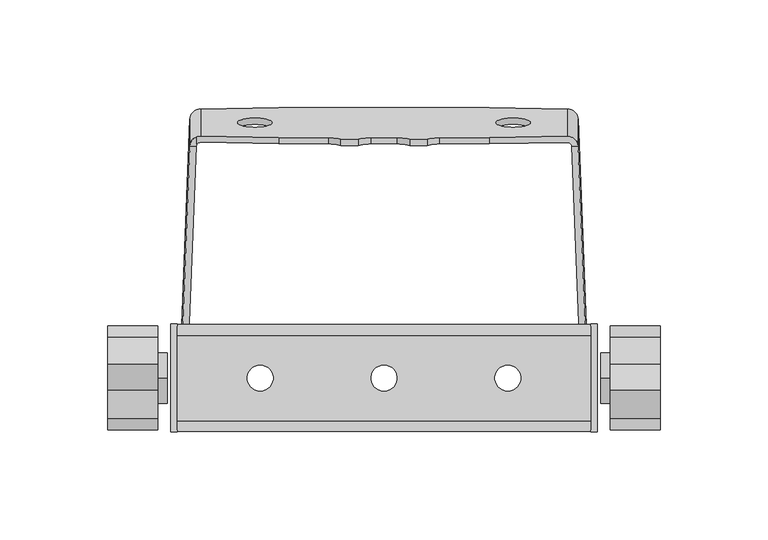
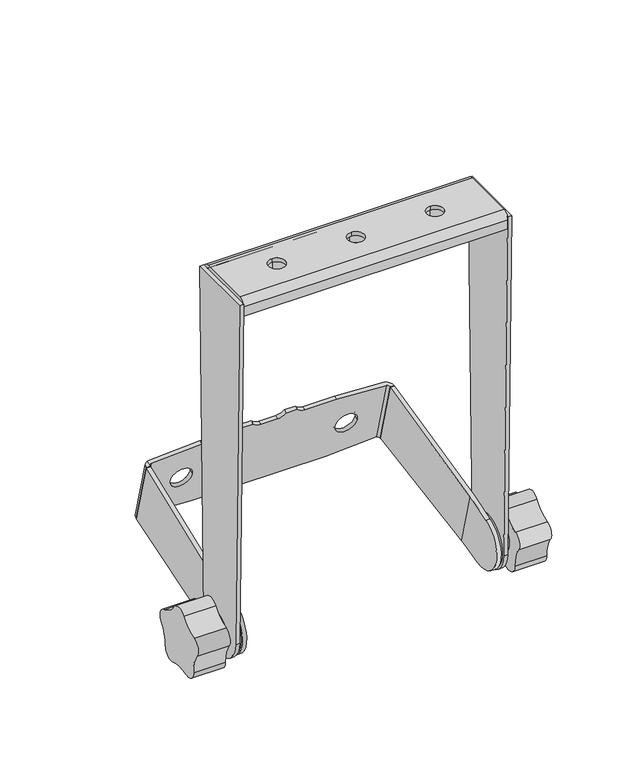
"""IFC4 building model written with IfcOpenShell, lengths in millimetres: proxy geometry, d&b U-Series U3 Swivel Bracket : d&b U-Series U3 Swivel Bracket."""

from ifc_helpers import new_model, si_unit, point, frame, frame_2d, origin, origin_2d, place, context, project, spatial, polyline, circle_curve, ellipse_curve, trimmed, segment, composite_curve, outline, extrude, source, transform, mapped, element, save
from ifc_brep_helpers import plane_surface, cylinder_surface, revolved_surface, advanced_brep


def communication_devices_f46f4e43(model_context):
    return source(origin(), model_context, "Body", "SolidModel", [
        advanced_brep(
        [(85.2249786, 109.5968687, 54.6233142), (49.0, 108.9412549, 57.0700983), (26.0, 108.9412549, 57.0700983), (20.0, 108.1647978, 59.9678757), (11.9986269, 108.1649755, 59.9672126), (6.0, 108.9412549, 57.0700983), (-6.0, 108.9412549, 57.0700983), (-11.9986269, 108.1649755, 59.9672126), (-20.0, 108.1647978, 59.9678757), (-26.0, 108.9412549, 57.0700983), (-49.0, 108.9412549, 57.0700983), (-85.2249786, 109.6322735, 54.4911818), (-85.2249786, 122.2253296, 7.4932566), (-49.0, 122.8809434, 5.0464726), (49.0, 122.8809434, 5.0464726), (85.2249786, 122.2253296, 7.4932566), (-68.015413, 115.9232503, 31.0129366), (-51.9395257, 115.9232503, 31.0129366), (68.015413, 115.9232503, 31.0129366), (51.9395257, 115.9232503, 31.0129366), (-86.9078273, 108.704187, 54.1140954), (-87.1464599, 107.8082819, 53.8743772), (-87.1464599, 120.3345454, 7.1257254), (-90.1441716, 107.920985, 53.9088321), (-90.1441716, 120.3940588, 7.358687), (-86.9078273, 112.2531286, 55.0650314), (-85.1480264, 112.528583, 55.2731173), (-85.1480264, 125.1244998, 8.2645161), (-49.0, 111.8390324, 57.8465554), (-26.0, 111.8390324, 57.8465554), (-20.0, 111.0625753, 60.7443329), (-11.9986269, 111.0627529, 60.7436697), (-6.0, 111.8390324, 57.8465554), (6.0, 111.8390324, 57.8465554), (11.9986269, 111.0627529, 60.7436697), (20.0, 111.0625753, 60.7443329), (26.0, 111.8390324, 57.8465554), (49.0, 111.8390324, 57.8465554), (85.1480264, 112.4932535, 55.404969), (85.1480264, 125.1244998, 8.2645161), (49.0, 125.7787209, 5.8229297), (-49.0, 125.7787209, 5.8229297), (-51.9395257, 118.8210278, 31.7893938), (-68.015413, 118.8210278, 31.7893938), (51.9395257, 118.8210278, 31.7893938), (68.015413, 118.8210278, 31.7893938), (90.1441716, 107.9436569, 53.8242195), (90.1441716, 120.3940588, 7.358687), (87.1464599, 107.775636, 53.9962135), (87.1464599, 120.3345454, 7.1257254)],
        [
            (0, 1),
            (1, 2),
            (2, 3, circle_curve(frame((26.0, 107.0001121, 64.314542), z_axis=(0.0, 0.9659258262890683, 0.2588190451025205), x_axis=(-1.0, 0.0, 0.0)), 7.5)),
            (3, 4),
            (4, 5, circle_curve(frame((6.0, 107.0005563, 64.3128841), z_axis=(0.0, 0.9659258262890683, 0.2588190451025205), x_axis=(-1.0, 0.0, 0.0)), 7.4982837)),
            (5, 6),
            (6, 7, circle_curve(frame((-6.0, 107.0005563, 64.3128841), z_axis=(0.0, 0.9659258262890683, 0.2588190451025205), x_axis=(1.0, 0.0, 0.0)), 7.4982837)),
            (7, 8),
            (8, 9, circle_curve(frame((-26.0, 107.0001121, 64.314542), z_axis=(0.0, 0.9659258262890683, 0.2588190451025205), x_axis=(1.0, 0.0, 0.0)), 7.5)),
            (9, 10),
            (10, 11),
            (11, 12),
            (12, 13),
            (13, 14),
            (14, 15),
            (15, 0),
            (16, 17, circle_curve(frame((-59.9774693, 115.9232503, 31.0129366), z_axis=(0.0, 0.9659258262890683, 0.2588190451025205), x_axis=(1.0, 0.0, 0.0)), 8.0379437)),
            (17, 16, circle_curve(frame((-59.9774693, 115.9232503, 31.0129366), z_axis=(0.0, 0.9659258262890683, 0.2588190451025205), x_axis=(1.0, 0.0, 0.0)), 8.0379437)),
            (18, 19, circle_curve(frame((59.9774693, 115.9232503, 31.0129366), z_axis=(0.0, 0.9659258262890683, 0.2588190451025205), x_axis=(-1.0, 0.0, 0.0)), 8.0379437)),
            (19, 18, circle_curve(frame((59.9774693, 115.9232503, 31.0129366), z_axis=(0.0, 0.9659258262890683, 0.2588190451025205), x_axis=(-1.0, 0.0, 0.0)), 8.0379437)),
            (11, 20, ellipse_curve(frame((-85.2249786, 107.776265, 53.9938659), z_axis=(-0.07350366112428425, -0.2581189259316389, 0.9633129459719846), x_axis=(-0.997294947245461, 0.019024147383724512, -0.07099908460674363)), 1.9266931, 1.9214813)),
            (20, 21, ellipse_curve(frame((-85.2249786, 107.808964, 53.8718318), z_axis=(0.001371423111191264, -0.2588188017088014, 0.9659249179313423), x_axis=(0.9999990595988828, 0.00035495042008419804, -0.0013246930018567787)), 1.9214831, 1.9214813)),
            (21, 22),
            (22, 12, ellipse_curve(frame((-85.2249786, 120.3693211, 6.9959407), z_axis=(-0.06975647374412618, 0.2581885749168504, -0.9635728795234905), x_axis=(0.9975640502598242, 0.018054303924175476, -0.06737957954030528)), 1.9261734, 1.9214813)),
            (21, 23),
            (23, 24),
            (24, 22),
            (23, 25, ellipse_curve(frame((-85.1480264, 107.7331481, 53.8514077), z_axis=(-0.001371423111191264, 0.2588188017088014, -0.9659249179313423), x_axis=(-0.9999990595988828, -0.00035495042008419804, 0.0013246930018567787)), 5.0000047, 5.0)),
            (25, 26, ellipse_curve(frame((-85.1480264, 107.6989539, 53.9790221), z_axis=(0.07350366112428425, 0.2581189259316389, -0.9633129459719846), x_axis=(0.997294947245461, -0.019024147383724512, 0.07099908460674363)), 5.0135619, 5.0)),
            (26, 27),
            (27, 24, ellipse_curve(frame((-85.1480264, 120.2948706, 6.9704209), z_axis=(0.06975647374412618, -0.2581885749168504, 0.9635728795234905), x_axis=(-0.9975640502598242, -0.018054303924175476, 0.06737957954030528)), 5.0122095, 5.0)),
            (26, 28),
            (28, 29),
            (29, 30, circle_curve(frame((-26.0, 109.8978895, 65.0909991), z_axis=(0.0, -0.9659258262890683, -0.2588190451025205), x_axis=(1.0, 0.0, 0.0)), 7.5)),
            (30, 31),
            (31, 32, circle_curve(frame((-6.0, 109.8983338, 65.0893412), z_axis=(0.0, -0.9659258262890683, -0.2588190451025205), x_axis=(1.0, 0.0, 0.0)), 7.4982837)),
            (32, 33),
            (33, 34, circle_curve(frame((6.0, 109.8983338, 65.0893412), z_axis=(0.0, -0.9659258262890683, -0.2588190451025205), x_axis=(-1.0, 0.0, 0.0)), 7.4982837)),
            (34, 35),
            (35, 36, circle_curve(frame((26.0, 109.8978895, 65.0909991), z_axis=(0.0, -0.9659258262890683, -0.2588190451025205), x_axis=(-1.0, 0.0, 0.0)), 7.5)),
            (36, 37),
            (37, 38),
            (38, 39),
            (39, 40),
            (40, 41),
            (41, 27),
            (42, 43, circle_curve(frame((-59.9774693, 118.8210278, 31.7893938), z_axis=(0.0, -0.9659258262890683, -0.2588190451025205), x_axis=(1.0, 0.0, 0.0)), 8.0379437)),
            (43, 42, circle_curve(frame((-59.9774693, 118.8210278, 31.7893938), z_axis=(0.0, -0.9659258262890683, -0.2588190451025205), x_axis=(1.0, 0.0, 0.0)), 8.0379437)),
            (44, 45, circle_curve(frame((59.9774693, 118.8210278, 31.7893938), z_axis=(0.0, -0.9659258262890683, -0.2588190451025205), x_axis=(-1.0, 0.0, 0.0)), 8.0379437)),
            (45, 44, circle_curve(frame((59.9774693, 118.8210278, 31.7893938), z_axis=(0.0, -0.9659258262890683, -0.2588190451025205), x_axis=(-1.0, 0.0, 0.0)), 8.0379437)),
            (38, 46, ellipse_curve(frame((85.1480264, 107.6636244, 54.1108738), z_axis=(-0.06975647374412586, 0.25818857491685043, -0.9635728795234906), x_axis=(-0.9975640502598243, -0.018054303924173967, 0.06737957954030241)), 5.0122095, 5.0)),
            (46, 47),
            (47, 39, ellipse_curve(frame((85.1480264, 120.2948706, 6.9704209), z_axis=(-0.06975647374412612, -0.2581885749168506, 0.9635728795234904), x_axis=(0.9975640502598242, -0.01805430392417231, 0.06737957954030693)), 5.0122095, 5.0)),
            (46, 48),
            (48, 49),
            (49, 47),
            (15, 49, ellipse_curve(frame((85.2249786, 120.3693211, 6.9959407), z_axis=(0.06975647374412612, 0.2581885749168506, -0.9635728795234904), x_axis=(-0.9975640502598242, 0.01805430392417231, -0.06737957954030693)), 1.9261734, 1.9214813)),
            (48, 0, ellipse_curve(frame((85.2249786, 107.7408603, 54.1259982), z_axis=(0.06975647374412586, -0.25818857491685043, 0.9635728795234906), x_axis=(0.9975640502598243, 0.018054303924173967, -0.06737957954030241)), 1.9261734, 1.9214813)),
            (10, 28),
            (25, 20),
            (9, 29),
            (7, 31),
            (30, 8),
            (5, 33),
            (32, 6),
            (1, 37),
            (36, 2),
            (41, 13),
            (14, 40),
            (4, 34),
            (3, 35),
            (17, 42),
            (43, 16),
            (19, 44),
            (45, 18),
        ],
        [
            plane_surface(frame((85.2249786, 103.2548082, 78.2922064), z_axis=(0.0, -0.9659258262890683, -0.2588190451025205), x_axis=(0.0, 0.2588190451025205, -0.9659258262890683))),
            revolved_surface(polyline([(-83.3034973, 120.404096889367, 6.866155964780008), (-83.3034973, 107.73961137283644, 54.130659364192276)]), (-85.2249786, 124.7073671, -9.1938671), (0.0, 0.2588190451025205, -0.9659258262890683)),
            plane_surface(frame((-87.1464599, 101.3987997, 77.7948905), z_axis=(-0.03925981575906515, -0.9651811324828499, -0.2586195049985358), x_axis=(0.0, 0.2588190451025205, -0.9659258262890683))),
            cylinder_surface(frame((-85.1480264, 124.6315239, -9.2141893), z_axis=(0.0, -0.2588190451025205, 0.9659258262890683), x_axis=(1.0, 0.0, 0.0)), 5.0),
            plane_surface(frame((-85.1480264, 106.1525856, 79.0686636), z_axis=(0.0, 0.9659258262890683, 0.2588190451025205), x_axis=(0.0, 0.2588190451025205, -0.9659258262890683))),
            cylinder_surface(frame((85.1480264, 124.6315239, -9.2141893), z_axis=(0.0, -0.2588190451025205, 0.9659258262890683), x_axis=(-1.0, 0.0, 0.0)), 5.0),
            plane_surface(frame((90.1441716, 101.5125669, 77.8253743), z_axis=(0.03925981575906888, -0.9651811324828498, -0.2586195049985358), x_axis=(0.0, 0.2588190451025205, -0.9659258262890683))),
            revolved_surface(polyline([(83.3034973, 120.404096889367, 6.866155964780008), (83.3034973, 107.70608460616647, 54.2557829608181)]), (85.2249786, 124.7073671, -9.1938671), (0.0, 0.2588190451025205, -0.9659258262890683)),
            plane_surface(frame((-86.9078273, 136.7102982, 61.6183103), z_axis=(-0.07350366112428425, -0.2581189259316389, 0.9633129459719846), x_axis=(0.0, -0.9659258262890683, -0.2588190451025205))),
            plane_surface(frame((-49.0, 135.987178, 64.3170315), z_axis=(0.0, -0.2588190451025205, 0.9659258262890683), x_axis=(0.0, -0.9659258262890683, -0.2588190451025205))),
            plane_surface(frame((-20.0, 135.2107209, 67.214809), z_axis=(8.580259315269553e-05, -0.2588190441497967, 0.9659258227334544), x_axis=(0.0, -0.9659258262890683, -0.2588190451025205))),
            plane_surface(frame((-6.0, 135.987178, 64.3170315), z_axis=(0.0, -0.2588190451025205, 0.9659258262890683), x_axis=(0.0, -0.9659258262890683, -0.2588190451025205))),
            plane_surface(frame((26.0, 135.987178, 64.3170315), z_axis=(0.0, -0.2588190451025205, 0.9659258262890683), x_axis=(0.0, -0.9659258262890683, -0.2588190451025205))),
            plane_surface(frame((49.0, 135.987178, 64.3170315), z_axis=(0.06975647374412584, -0.2581885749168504, 0.9635728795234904), x_axis=(0.0, -0.9659258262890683, -0.2588190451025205))),
            plane_surface(frame((-49.0, 149.9268665, 12.2934058), z_axis=(-0.06975647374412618, 0.2581885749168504, -0.9635728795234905), x_axis=(0.0, -0.9659258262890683, -0.2588190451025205))),
            plane_surface(frame((90.1441716, 149.1822232, 15.0724524), z_axis=(0.06975647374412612, 0.2581885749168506, -0.9635728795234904), x_axis=(0.0, -0.9659258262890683, -0.2588190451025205))),
            plane_surface(frame((49.0, 149.9268665, 12.2934058), z_axis=(0.0, 0.2588190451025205, -0.9659258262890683), x_axis=(0.0, -0.9659258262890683, -0.2588190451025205))),
            revolved_surface(polyline([(-18.5, 109.89788959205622, 65.09099913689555), (-18.5, 107.00011206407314, 64.31454198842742)]), (-26.0, 85.7497439, 58.620523), (0.0, 0.9659258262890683, 0.2588190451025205)),
            revolved_surface(polyline([(1.4982837, 109.89833379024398, 65.08934123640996), (1.4982837, 107.00055629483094, 64.31288409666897)]), (-6.0, 85.7501881, 58.6188651), (0.0, 0.9659258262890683, 0.2588190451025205)),
            revolved_surface(polyline([(-1.4982837, 109.89833379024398, 65.08934123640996), (-1.4982837, 107.00055629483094, 64.31288409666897)]), (6.0, 85.7501881, 58.6188651), (0.0, 0.9659258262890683, 0.2588190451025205)),
            plane_surface(frame((11.9986269, 135.2108986, 67.2141459), z_axis=(-8.580259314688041e-05, -0.2588190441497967, 0.9659258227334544), x_axis=(0.0, -0.9659258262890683, -0.2588190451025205))),
            revolved_surface(polyline([(18.5, 109.89788959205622, 65.09099913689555), (18.5, 107.00011206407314, 64.31454198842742)]), (26.0, 85.7497439, 58.620523), (0.0, 0.9659258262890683, 0.2588190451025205)),
            plane_surface(frame((-90.1441716, 136.7091495, 61.6225975), z_axis=(0.001371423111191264, -0.2588188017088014, 0.9659249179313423), x_axis=(0.0, -0.9659258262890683, -0.2588190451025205))),
            revolved_surface(polyline([(-51.9395256, 118.82102781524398, 31.789393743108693), (-51.9395256, 115.9232503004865, 31.012936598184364)]), (-59.9774693, 94.6728821, 25.3189176), (0.0, 0.9659258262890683, 0.2588190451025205)),
            revolved_surface(polyline([(51.9395256, 118.8210278, 31.7893938), (51.9395256, 115.92325028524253, 31.01293665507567)]), (59.9774693, 118.8210278, 31.7893938), (0.0, 0.9659258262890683, 0.2588190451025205)),
        ],
        [
            (0, [[1, 2, 3, 4, 5, 6, 7, 8, 9, 10, 11, 12, 13, 14, 15, 16], [17, 18], [19, 20]]),
            (1, [[21, 22, 23, 24, -12]]),
            (2, [[25, 26, 27, -23]]),
            (3, [[28, 29, 30, 31, -26]]),
            (4, [[32, 33, 34, 35, 36, 37, 38, 39, 40, 41, 42, 43, 44, 45, 46, -30], [47, 48], [49, 50]]),
            (5, [[51, 52, 53, -43]]),
            (6, [[54, 55, 56, -52]]),
            (7, [[57, -55, 58, -16]]),
            (8, [[-21, -11, 59, -32, -29, 60]]),
            (9, [[-10, 61, -33, -59]]),
            (10, [[-8, 62, -35, 63]]),
            (11, [[-6, 64, -37, 65]]),
            (12, [[-2, 66, -41, 67]]),
            (13, [[-1, -58, -54, -51, -42, -66]]),
            (14, [[-13, -24, -27, -31, -46, 68]]),
            (15, [[-44, -53, -56, -57, -15, 69]]),
            (16, [[-45, -69, -14, -68]]),
            (17, [[-34, -61, -9, -63]]),
            (18, [[-36, -62, -7, -65]]),
            (19, [[-5, 70, -38, -64]]),
            (20, [[-4, 71, -39, -70]]),
            (21, [[-40, -71, -3, -67]]),
            (22, [[-28, -25, -22, -60]]),
            (23, [[-18, 72, -48, 73]]),
            (23, [[-47, -72, -17, -73]]),
            (24, [[-20, 74, -50, 75]]),
            (24, [[-49, -74, -19, -75]]),
        ],
    ),
        advanced_brep(
        [(90.9999991, 13.958857, 25.1789898), (87.1464845, 107.8129201, 53.8570709), (87.1464845, 120.2972632, 7.2648685), (90.9999991, 24.6789044, -14.8287719), (94.0023138, 24.6789044, -14.8287719), (90.1441716, 120.4110294, 7.295352), (90.1441716, 107.9266863, 53.8875545), (94.0023138, 13.958857, 25.1789898), (94.0, -5.8465731, 19.1232793), (94.0, 10.050104, 23.9838491), (91.0, 10.050104, 23.9838491), (91.0, -5.8465731, 19.1232793), (91.0, 4.4990789, -19.4876517), (91.0, 20.6961894, -15.7482541), (94.0, 20.6961894, -15.7482541), (94.0, 4.4990789, -19.4876517)],
        [
            (0, 1),
            (1, 2),
            (2, 3),
            (3, 0),
            (4, 5),
            (5, 6),
            (6, 7),
            (7, 4),
            (8, 9),
            (9, 7),
            (6, 1),
            (0, 10),
            (10, 11),
            (11, 8),
            (12, 13),
            (13, 3),
            (2, 5),
            (4, 14),
            (14, 15),
            (15, 12),
            (8, 15, circle_curve(frame((94.0, 0.0, 0.0), z_axis=(1.0, 0.0, 0.0), x_axis=(0.0, 0.9659258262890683, 0.2588190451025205)), 20.0)),
            (12, 11, circle_curve(frame((91.0, 0.0, 0.0), z_axis=(-1.0, 0.0, 0.0), x_axis=(0.0, 0.9659258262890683, 0.2588190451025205)), 20.0)),
        ],
        [
            plane_surface(frame((90.9999991, 12.8480622, 29.3245324), z_axis=(-0.9992290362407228, -0.03792206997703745, -0.010161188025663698), x_axis=(0.0, 0.2588190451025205, -0.9659258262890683))),
            plane_surface(frame((93.3256533, 29.4833896, 33.781955), z_axis=(0.9992290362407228, 0.03792206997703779, 0.010161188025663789), x_axis=(0.0, 0.2588190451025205, -0.9659258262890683))),
            plane_surface(frame((250.0, 33.9720379, 31.2982221), z_axis=(0.0, -0.29239743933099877, 0.9562968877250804), x_axis=(-1.0, 0.0, 0.0))),
            plane_surface(frame((250.0, 20.6961982, -15.7482521), z_axis=(0.0, 0.22495105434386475, -0.9743700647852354), x_axis=(-1.0, 0.0, 0.0))),
            plane_surface(frame((94.0, 13.9582388, 25.181297), z_axis=(1.0000000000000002, 0.0, 0.0), x_axis=(0.0, 0.2588190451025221, -0.965925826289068))),
            plane_surface(frame((91.0, 13.9582388, 25.181297), z_axis=(-1.0000000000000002, 0.0, 0.0), x_axis=(0.0, -0.2588190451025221, 0.965925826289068))),
            cylinder_surface(frame((91.0, 0.0, 0.0), z_axis=(1.0, 0.0, 0.0), x_axis=(0.0, 0.9659258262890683, 0.2588190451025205)), 20.0),
            plane_surface(frame((90.1441716, 107.9266863, 53.8875545), z_axis=(-0.03925981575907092, 0.9651811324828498, 0.25861950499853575), x_axis=(-0.9992290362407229, -0.03792206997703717, -0.010161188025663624))),
        ],
        [
            (0, [[1, 2, 3, 4]]),
            (1, [[5, 6, 7, 8]]),
            (2, [[9, 10, -7, 11, -1, 12, 13, 14]]),
            (3, [[15, 16, -3, 17, -5, 18, 19, 20]]),
            (4, [[-19, -18, -8, -10, -9, 21]]),
            (5, [[-13, -12, -4, -16, -15, 22]]),
            (6, [[-14, -22, -20, -21]]),
            (7, [[-17, -2, -11, -6]]),
        ],
    ),
        advanced_brep(
        [(-90.1441716, 107.9202414, 53.9086328), (-94.0023138, 13.958857, 25.1789898), (-94.0, 10.050104, 23.9838491), (-94.0, -5.8465731, 19.1232793), (-91.0, -5.8465731, 19.1232793), (-91.0, 10.050104, 23.9838491), (-91.0, 13.9589368, 25.1790142), (-87.1464845, 107.807678, 53.8742154), (-87.1464845, 120.3012968, 7.2473969), (-90.9999991, 24.6789044, -14.8287719), (-91.0, 20.6961894, -15.7482541), (-91.0, 4.4990789, -19.4876517), (-94.0, 4.4990789, -19.4876517), (-94.0, 20.6961894, -15.7482541), (-94.0, 24.6788957, -14.8287739), (-90.1441716, 120.4159876, 7.2738753)],
        [
            (0, 1),
            (1, 2),
            (2, 3),
            (3, 4),
            (4, 5),
            (5, 6),
            (6, 7),
            (7, 0),
            (8, 9),
            (9, 10),
            (10, 11),
            (11, 12),
            (12, 13),
            (13, 14),
            (14, 15),
            (15, 8),
            (14, 1),
            (0, 15),
            (6, 9),
            (8, 7),
            (12, 3, circle_curve(frame((-94.0, 0.0, 0.0), z_axis=(-1.0, 0.0, 0.0), x_axis=(0.0, 0.9659258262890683, 0.2588190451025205)), 20.0)),
            (4, 11, circle_curve(frame((-91.0, 0.0, 0.0), z_axis=(1.0, 0.0, 0.0), x_axis=(0.0, 0.9659258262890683, 0.2588190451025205)), 20.0)),
        ],
        [
            plane_surface(frame((250.0, 33.9720379, 31.2982221), z_axis=(0.0, -0.29239743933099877, 0.9562968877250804), x_axis=(-1.0, 0.0, 0.0))),
            plane_surface(frame((250.0, 20.6961982, -15.7482521), z_axis=(0.0, 0.22495105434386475, -0.9743700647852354), x_axis=(-1.0, 0.0, 0.0))),
            plane_surface(frame((-94.0023138, 12.8480622, 29.3245324), z_axis=(-0.999229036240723, 0.03792206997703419, 0.010161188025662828), x_axis=(0.0, 0.2588190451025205, -0.9659258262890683))),
            plane_surface(frame((-90.3279662, 29.3696234, 33.7514714), z_axis=(0.9992290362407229, -0.037922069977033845, -0.010161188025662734), x_axis=(0.0, 0.2588190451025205, -0.9659258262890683))),
            plane_surface(frame((-90.1441716, 120.4110294, 7.295352), z_axis=(0.03925981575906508, 0.9651811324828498, 0.2586195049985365), x_axis=(0.9992290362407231, -0.03792206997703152, -0.01016118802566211))),
            plane_surface(frame((-94.0, -5.8474341, 19.1260951), z_axis=(-1.0000000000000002, 0.0, 0.0), x_axis=(0.0, -0.9563047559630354, -0.2923717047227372))),
            plane_surface(frame((-91.0, -5.8474341, 19.1260951), z_axis=(1.0000000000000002, 0.0, 0.0), x_axis=(0.0, 0.9563047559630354, 0.2923717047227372))),
            cylinder_surface(frame((-91.0, 0.0, 0.0), z_axis=(-1.0, 0.0, 0.0), x_axis=(0.0, 0.9659258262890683, 0.2588190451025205)), 20.0),
        ],
        [
            (0, [[1, 2, 3, 4, 5, 6, 7, 8]]),
            (1, [[9, 10, 11, 12, 13, 14, 15, 16]]),
            (2, [[-15, 17, -1, 18]]),
            (3, [[-7, 19, -9, 20]]),
            (4, [[-8, -20, -16, -18]]),
            (5, [[-3, -2, -17, -14, -13, 21]]),
            (6, [[-11, -10, -19, -6, -5, 22]]),
            (7, [[-12, -22, -4, -21]]),
        ],
    ),
        extrude(outline(composite_curve([segment(polyline([(-19.9815439, -1.5366539), (-25.0477362, 262.1), (25.0476426, 262.1), (19.9913858, -1.5366539)]), True, "CONTINUOUS"), segment(trimmed(circle_curve(frame_2d((0.004921, -0.7683412)), 20.001227), [point((19.9913858, -1.5366539))], [point((-19.9815439, -1.5366539))], False, "CARTESIAN"), True, "CONTINUOUS")], self_intersect=False)), frame((-99.0, 0.0, 0.0), z_axis=(1.0, 0.0, 0.0), x_axis=(0.0, 1.0, 0.0)), (0.0, 0.0, 1.0), 3.0),
        extrude(outline(composite_curve([segment(polyline([(-19.9815439, -1.5366539), (-25.0477362, 262.1), (25.0476426, 262.1), (19.9913858, -1.5366539)]), True, "CONTINUOUS"), segment(trimmed(circle_curve(frame_2d((0.004921, -0.7683412)), 20.001227), [point((19.9913858, -1.5366539))], [point((-19.9815439, -1.5366539))], False, "CARTESIAN"), True, "CONTINUOUS")], self_intersect=False)), frame((96.0, 0.0, 0.0), z_axis=(1.0, 0.0, 0.0), x_axis=(0.0, 1.0, 0.0)), (0.0, 0.0, 1.0), 3.0),
        extrude(outline(composite_curve([segment(trimmed(circle_curve(frame_2d((27.151281, 35.7782371)), 25.0), [point((6.4330521, 21.7869901))], [point((19.2519239, 12.0590433))], True, "CARTESIAN"), True, "CONTINUOUS"), segment(trimmed(circle_curve(frame_2d((16.9397501, 5.1163393)), 7.3176011), [point((19.2519239, 12.0590433))], [point((22.7085813, 0.614354))], False, "CARTESIAN"), True, "CONTINUOUS"), segment(trimmed(circle_curve(frame_2d((42.4173328, -14.7663194)), 25.0), [point((22.7085813, 0.614354))], [point((17.4180033, -14.5832183))], True, "CARTESIAN"), True, "CONTINUOUS"), segment(trimmed(circle_curve(frame_2d((10.1005985, -14.5296239)), 7.3176011), [point((17.4180033, -14.5832183))], [point((7.601623, -21.4072984))], False, "CARTESIAN"), True, "CONTINUOUS"), segment(trimmed(circle_curve(frame_2d((-0.9359276, -44.9043244)), 25.0), [point((7.601623, -21.4072984))], [point((-8.4870058, -21.0719679))], True, "CARTESIAN"), True, "CONTINUOUS"), segment(trimmed(circle_curve(frame_2d((-10.6972369, -14.0961408)), 7.3176011), [point((-8.4870058, -21.0719679))], [point((-18.01052, -13.8447921))], False, "CARTESIAN"), True, "CONTINUOUS"), segment(trimmed(circle_curve(frame_2d((-42.9957679, -12.9860793)), 25.0), [point((-18.01052, -13.8447921))], [point((-22.6632614, 1.560026))], True, "CARTESIAN"), True, "CONTINUOUS"), segment(trimmed(circle_curve(frame_2d((-16.7118545, 5.8177298)), 7.3176011), [point((-22.6632614, 1.560026))], [point((-18.7327365, 12.8507464))], False, "CARTESIAN"), True, "CONTINUOUS"), segment(trimmed(circle_curve(frame_2d((-25.6369183, 36.878486)), 25.0), [point((-18.7327365, 12.8507464))], [point((-5.51966, 22.036117))], True, "CARTESIAN"), True, "CONTINUOUS"), segment(trimmed(circle_curve(frame_2d((0.3687428, 17.6916955)), 7.3176011), [point((-5.51966, 22.036117))], [point((6.4330521, 21.7869901))], False, "CARTESIAN"), True, "CONTINUOUS")], self_intersect=False)), frame((105.2, 0.0, 0.0), z_axis=(1.0, 0.0, 0.0), x_axis=(0.0, 1.0, 0.0)), (0.0, 0.0, 1.0), 23.1705346),
        extrude(outline(composite_curve([segment(trimmed(circle_curve(frame_2d((27.151281, 35.7782371)), 25.0), [point((6.4330521, 21.7869901))], [point((19.2519239, 12.0590433))], True, "CARTESIAN"), True, "CONTINUOUS"), segment(trimmed(circle_curve(frame_2d((16.9397501, 5.1163393)), 7.3176011), [point((19.2519239, 12.0590433))], [point((22.7085813, 0.614354))], False, "CARTESIAN"), True, "CONTINUOUS"), segment(trimmed(circle_curve(frame_2d((42.4173328, -14.7663194)), 25.0), [point((22.7085813, 0.614354))], [point((17.4180033, -14.5832183))], True, "CARTESIAN"), True, "CONTINUOUS"), segment(trimmed(circle_curve(frame_2d((10.1005985, -14.5296239)), 7.3176011), [point((17.4180033, -14.5832183))], [point((7.601623, -21.4072984))], False, "CARTESIAN"), True, "CONTINUOUS"), segment(trimmed(circle_curve(frame_2d((-0.9359276, -44.9043244)), 25.0), [point((7.601623, -21.4072984))], [point((-8.4870058, -21.0719679))], True, "CARTESIAN"), True, "CONTINUOUS"), segment(trimmed(circle_curve(frame_2d((-10.6972369, -14.0961408)), 7.3176011), [point((-8.4870058, -21.0719679))], [point((-18.01052, -13.8447921))], False, "CARTESIAN"), True, "CONTINUOUS"), segment(trimmed(circle_curve(frame_2d((-42.9957679, -12.9860793)), 25.0), [point((-18.01052, -13.8447921))], [point((-22.6632614, 1.560026))], True, "CARTESIAN"), True, "CONTINUOUS"), segment(trimmed(circle_curve(frame_2d((-16.7118545, 5.8177298)), 7.3176011), [point((-22.6632614, 1.560026))], [point((-18.7327365, 12.8507464))], False, "CARTESIAN"), True, "CONTINUOUS"), segment(trimmed(circle_curve(frame_2d((-25.6369183, 36.878486)), 25.0), [point((-18.7327365, 12.8507464))], [point((-5.51966, 22.036117))], True, "CARTESIAN"), True, "CONTINUOUS"), segment(trimmed(circle_curve(frame_2d((0.3687428, 17.6916955)), 7.3176011), [point((-5.51966, 22.036117))], [point((6.4330521, 21.7869901))], False, "CARTESIAN"), True, "CONTINUOUS")], self_intersect=False)), frame((-128.3705346, 0.0, 0.0), z_axis=(1.0, 0.0, 0.0), x_axis=(0.0, 1.0, 0.0)), (0.0, 0.0, 1.0), 23.1705346),
        advanced_brep(
        [(96.0, -22.0, 253.0), (96.0, -22.0, 260.0), (96.0, -19.8728654, 262.1), (96.0, 19.8728654, 262.1), (96.0, 21.9728654, 260.0), (96.0, 22.0, 253.0), (96.0, 24.8728654, 253.0), (96.0, 24.8728654, 260.0), (96.0, 19.8728654, 265.0), (96.0, -19.8728654, 265.0), (96.0, -24.8728654, 260.0), (96.0, -24.8728654, 253.0), (-96.0, -22.0, 253.0), (-96.0, -24.8728654, 253.0), (-96.0, -24.8728654, 260.0), (-96.0, -19.8728654, 265.0), (-96.0, 19.8728654, 265.0), (-96.0, 24.8728654, 260.0), (-96.0, 24.8728654, 253.0), (-96.0, 22.0, 253.0), (-96.0, 22.0, 260.0), (-96.0, 19.8728654, 262.1), (-96.0, -19.8728654, 262.1), (-96.0, -21.9728654, 260.0), (-57.5, 6.0, 262.1), (-57.5, -6.0, 262.1), (0.0, -6.0, 262.1), (0.0, 6.0, 262.1), (57.5, -6.0, 262.1), (57.5, 6.0, 262.1), (-57.5, -6.0, 265.0), (-57.5, 6.0, 265.0), (0.0, 6.0, 265.0), (0.0, -6.0, 265.0), (57.5, 6.0, 265.0), (57.5, -6.0, 265.0)],
        [
            (0, 1),
            (1, 2, circle_curve(frame((96.0, -19.8728654, 260.0), z_axis=(-1.0, 0.0, 0.0), x_axis=(0.0, -1.0, 0.0)), 2.1)),
            (2, 3),
            (3, 4, circle_curve(frame((96.0, 19.8728654, 260.0), z_axis=(-1.0, 0.0, 0.0), x_axis=(0.0, -1.0, 0.0)), 2.1)),
            (4, 5),
            (5, 6),
            (6, 7),
            (7, 8, circle_curve(frame((96.0, 19.8728654, 260.0), z_axis=(1.0, 0.0, 0.0), x_axis=(0.0, -1.0, 0.0)), 5.0)),
            (8, 9),
            (9, 10, circle_curve(frame((96.0, -19.8728654, 260.0), z_axis=(1.0, 0.0, 0.0), x_axis=(0.0, -1.0, 0.0)), 5.0)),
            (10, 11),
            (11, 0),
            (12, 13),
            (13, 14),
            (14, 15, circle_curve(frame((-96.0, -19.8728654, 260.0), z_axis=(-1.0, 0.0, 0.0), x_axis=(0.0, -1.0, 0.0)), 5.0)),
            (15, 16),
            (16, 17, circle_curve(frame((-96.0, 19.8728654, 260.0), z_axis=(-1.0, 0.0, 0.0), x_axis=(0.0, -1.0, 0.0)), 5.0)),
            (17, 18),
            (18, 19),
            (19, 20),
            (20, 21, circle_curve(frame((-96.0, 19.8728654, 260.0), z_axis=(1.0, 0.0, 0.0), x_axis=(0.0, -1.0, 0.0)), 2.1)),
            (21, 22),
            (22, 23, circle_curve(frame((-96.0, -19.8728654, 260.0), z_axis=(1.0, 0.0, 0.0), x_axis=(0.0, -1.0, 0.0)), 2.1)),
            (23, 12),
            (0, 12),
            (23, 1),
            (22, 2),
            (21, 3),
            (24, 25, circle_curve(frame((-57.5, 0.0, 262.1), z_axis=(0.0, 0.0, 1.0), x_axis=(0.0, -1.0, 0.0)), 6.0)),
            (25, 24, circle_curve(frame((-57.5, 0.0, 262.1), z_axis=(0.0, 0.0, 1.0), x_axis=(0.0, -1.0, 0.0)), 6.0)),
            (26, 27, circle_curve(frame((0.0, 0.0, 262.1), z_axis=(0.0, 0.0, 1.0), x_axis=(0.0, -1.0, 0.0)), 6.0)),
            (27, 26, circle_curve(frame((0.0, 0.0, 262.1), z_axis=(0.0, 0.0, 1.0), x_axis=(0.0, -1.0, 0.0)), 6.0)),
            (28, 29, circle_curve(frame((57.5, 0.0, 262.1), z_axis=(0.0, 0.0, 1.0), x_axis=(0.0, -1.0, 0.0)), 6.0)),
            (29, 28, circle_curve(frame((57.5, 0.0, 262.1), z_axis=(0.0, 0.0, 1.0), x_axis=(0.0, -1.0, 0.0)), 6.0)),
            (20, 4),
            (19, 5),
            (18, 6),
            (17, 7),
            (16, 8),
            (15, 9),
            (30, 31, circle_curve(frame((-57.5, 0.0, 265.0), z_axis=(0.0, 0.0, -1.0), x_axis=(0.0, -1.0, 0.0)), 6.0)),
            (31, 30, circle_curve(frame((-57.5, 0.0, 265.0), z_axis=(0.0, 0.0, -1.0), x_axis=(0.0, -1.0, 0.0)), 6.0)),
            (32, 33, circle_curve(frame((0.0, 0.0, 265.0), z_axis=(0.0, 0.0, -1.0), x_axis=(0.0, -1.0, 0.0)), 6.0)),
            (33, 32, circle_curve(frame((0.0, 0.0, 265.0), z_axis=(0.0, 0.0, -1.0), x_axis=(0.0, -1.0, 0.0)), 6.0)),
            (34, 35, circle_curve(frame((57.5, 0.0, 265.0), z_axis=(0.0, 0.0, -1.0), x_axis=(0.0, -1.0, 0.0)), 6.0)),
            (35, 34, circle_curve(frame((57.5, 0.0, 265.0), z_axis=(0.0, 0.0, -1.0), x_axis=(0.0, -1.0, 0.0)), 6.0)),
            (14, 10),
            (13, 11),
            (25, 30),
            (31, 24),
            (27, 32),
            (33, 26),
            (29, 34),
            (35, 28),
        ],
        [
            plane_surface(frame((96.0, -24.8728654, 253.0), z_axis=(1.0, 0.0, 0.0), x_axis=(0.0, -1.0, 0.0))),
            plane_surface(frame((-96.0, -24.8728654, 253.0), z_axis=(-1.0, 0.0, 0.0), x_axis=(0.0, 1.0, 0.0))),
            plane_surface(frame((96.0, -22.0, 260.0), z_axis=(0.0, 1.0, 0.0), x_axis=(-1.0, 0.0, 0.0))),
            revolved_surface(polyline([(-96.0, -21.9728654, 260.0), (96.0, -21.9728654, 260.0)]), (-96.0, -19.8728654, 260.0), (-1.0, 0.0, 0.0)),
            plane_surface(frame((96.0, 19.8728654, 262.1), z_axis=(0.0, 0.0, -1.0), x_axis=(-1.0, 0.0, 0.0))),
            revolved_surface(polyline([(-96.0, 17.772865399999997, 260.0), (96.0, 17.772865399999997, 260.0)]), (-96.0, 19.8728654, 260.0), (-1.0, 0.0, 0.0)),
            plane_surface(frame((96.0, 22.0, 253.0), z_axis=(0.0, -1.0, 0.0), x_axis=(-1.0, 0.0, 0.0))),
            plane_surface(frame((96.0, 24.8728654, 253.0), z_axis=(0.0, 0.0, -1.0), x_axis=(-1.0, 0.0, 0.0))),
            plane_surface(frame((96.0, 24.8728654, 260.0), z_axis=(0.0, 1.0, 0.0), x_axis=(-1.0, 0.0, 0.0))),
            cylinder_surface(frame((-96.0, 19.8728654, 260.0), z_axis=(1.0, 0.0, 0.0), x_axis=(0.0, -1.0, 0.0)), 5.0),
            plane_surface(frame((96.0, -19.8728654, 265.0), z_axis=(0.0, 0.0, 1.0), x_axis=(-1.0, 0.0, 0.0))),
            cylinder_surface(frame((-96.0, -19.8728654, 260.0), z_axis=(1.0, 0.0, 0.0), x_axis=(0.0, -1.0, 0.0)), 5.0),
            plane_surface(frame((96.0, -24.8728654, 253.0), z_axis=(0.0, -1.0, 0.0), x_axis=(-1.0, 0.0, 0.0))),
            plane_surface(frame((96.0, -22.0, 253.0), z_axis=(0.0, 0.0, -1.0), x_axis=(-1.0, 0.0, 0.0))),
            revolved_surface(polyline([(-57.5, -6.0, 265.0), (-57.5, -6.0, 262.1)]), (-57.5, 0.0, 262.1), (0.0, 0.0, 1.0)),
            revolved_surface(polyline([(0.0, -6.0, 265.0), (0.0, -6.0, 262.1)]), (0.0, 0.0, 260.0), (0.0, 0.0, 1.0)),
            revolved_surface(polyline([(57.5, -6.0, 265.0), (57.5, -6.0, 262.1)]), (57.5, 0.0, 260.0), (0.0, 0.0, 1.0)),
        ],
        [
            (0, [[1, 2, 3, 4, 5, 6, 7, 8, 9, 10, 11, 12]]),
            (1, [[13, 14, 15, 16, 17, 18, 19, 20, 21, 22, 23, 24]]),
            (2, [[25, -24, 26, -1]]),
            (3, [[-26, -23, 27, -2]]),
            (4, [[-27, -22, 28, -3], [29, 30], [31, 32], [33, 34]]),
            (5, [[-28, -21, 35, -4]]),
            (6, [[-35, -20, 36, -5]]),
            (7, [[-36, -19, 37, -6]]),
            (8, [[-37, -18, 38, -7]]),
            (9, [[-38, -17, 39, -8]]),
            (10, [[-39, -16, 40, -9], [41, 42], [43, 44], [45, 46]]),
            (11, [[-40, -15, 47, -10]]),
            (12, [[-47, -14, 48, -11]]),
            (13, [[-48, -13, -25, -12]]),
            (14, [[-30, 49, -42, 50]]),
            (14, [[-41, -49, -29, -50]]),
            (15, [[-32, 51, -44, 52]]),
            (15, [[-43, -51, -31, -52]]),
            (16, [[-34, 53, -46, 54]]),
            (16, [[-45, -53, -33, -54]]),
        ],
    ),
        extrude(outline(composite_curve([segment(trimmed(circle_curve(origin_2d(), 10.0), [point((0.0, -10.0))], [point((0.0, 10.0))], False, "CARTESIAN"), True, "CONTINUOUS"), segment(trimmed(circle_curve(origin_2d(), 10.0), [point((0.0, 10.0))], [point((0.0, -10.0))], False, "CARTESIAN"), True, "CONTINUOUS")], self_intersect=False), holes=[composite_curve([segment(trimmed(circle_curve(origin_2d(), 8.0), [point((0.0, -8.0))], [point((0.0, 8.0))], True, "CARTESIAN"), True, "CONTINUOUS"), segment(trimmed(circle_curve(origin_2d(), 8.0), [point((0.0, 8.0))], [point((0.0, -8.0))], True, "CARTESIAN"), True, "CONTINUOUS")], self_intersect=False)]), frame((0.0, 0.0, 255.6), z_axis=(0.0, 0.0, 1.0), x_axis=(1.0, 0.0, 0.0)), (0.0, 0.0, 1.0), 6.5),
        extrude(outline(composite_curve([segment(trimmed(circle_curve(frame_2d((-57.5, 0.0)), 8.0), [point((-57.5, -8.0))], [point((-57.5, 8.0))], False, "CARTESIAN"), True, "CONTINUOUS"), segment(trimmed(circle_curve(frame_2d((-57.5, 0.0)), 8.0), [point((-57.5, 8.0))], [point((-57.5, -8.0))], False, "CARTESIAN"), True, "CONTINUOUS")], self_intersect=False), holes=[composite_curve([segment(trimmed(circle_curve(frame_2d((-57.5, 0.0)), 6.0), [point((-57.5, -6.0))], [point((-57.5, 6.0))], True, "CARTESIAN"), True, "CONTINUOUS"), segment(trimmed(circle_curve(frame_2d((-57.5, 0.0)), 6.0), [point((-57.5, 6.0))], [point((-57.5, -6.0))], True, "CARTESIAN"), True, "CONTINUOUS")], self_intersect=False)]), frame((0.0, 0.0, 255.6), z_axis=(0.0, 0.0, 1.0), x_axis=(1.0, 0.0, 0.0)), (0.0, 0.0, 1.0), 6.5),
        extrude(outline(composite_curve([segment(trimmed(circle_curve(frame_2d((57.5, 0.0)), 8.0), [point((57.5, -8.0))], [point((57.5, 8.0))], False, "CARTESIAN"), True, "CONTINUOUS"), segment(trimmed(circle_curve(frame_2d((57.5, 0.0)), 8.0), [point((57.5, 8.0))], [point((57.5, -8.0))], False, "CARTESIAN"), True, "CONTINUOUS")], self_intersect=False), holes=[composite_curve([segment(trimmed(circle_curve(frame_2d((57.5, 0.0)), 6.0), [point((57.5, -6.0))], [point((57.5, 6.0))], True, "CARTESIAN"), True, "CONTINUOUS"), segment(trimmed(circle_curve(frame_2d((57.5, 0.0)), 6.0), [point((57.5, 6.0))], [point((57.5, -6.0))], True, "CARTESIAN"), True, "CONTINUOUS")], self_intersect=False)]), frame((0.0, 0.0, 255.6), z_axis=(0.0, 0.0, 1.0), x_axis=(1.0, 0.0, 0.0)), (0.0, 0.0, 1.0), 6.5),
        advanced_brep(
        [(105.2, 0.0, -11.75), (105.2, 0.0, 0.0), (105.2, 0.0, 11.75), (100.6, 0.0, 0.0), (100.6, 0.0, -11.75), (100.6, 0.0, 11.75)],
        [
            (0, 1),
            (1, 2),
            (2, 0, circle_curve(frame((105.2, 0.0, 0.0), z_axis=(1.0, 0.0, 0.0), x_axis=(0.0, 0.0, 1.0)), 11.75)),
            (0, 2, circle_curve(frame((105.2, 0.0, 0.0), z_axis=(1.0, 0.0, 0.0), x_axis=(0.0, 0.0, 1.0)), 11.75)),
            (3, 4),
            (4, 5, circle_curve(frame((100.6, 0.0, 0.0), z_axis=(-1.0, 0.0, 0.0), x_axis=(0.0, 0.0, 1.0)), 11.75)),
            (5, 3),
            (5, 4, circle_curve(frame((100.6, 0.0, 0.0), z_axis=(-1.0, 0.0, 0.0), x_axis=(0.0, 0.0, 1.0)), 11.75)),
            (4, 0),
            (2, 5),
        ],
        [
            plane_surface(frame((105.2, 0.0, 0.0), z_axis=(1.0, 0.0, 0.0), x_axis=(0.0, 0.0, 1.0))),
            plane_surface(frame((100.6, 0.0, 0.0), z_axis=(-1.0, 0.0, 0.0), x_axis=(0.0, 0.0, 1.0))),
            cylinder_surface(frame((130.2, 0.0, 0.0), z_axis=(-1.0, 0.0, 0.0), x_axis=(0.0, 0.0, 1.0)), 11.75),
        ],
        [
            (0, [[1, 2, 3]]),
            (0, [[-2, -1, 4]]),
            (1, [[5, 6, 7]]),
            (1, [[-7, 8, -5]]),
            (2, [[9, -3, 10, -6]]),
            (2, [[-10, -4, -9, -8]]),
        ],
    ),
        advanced_brep(
        [(94.0, 0.0, -19.0085486), (96.0, 0.0, -19.0085486), (96.0, 0.0, 19.0085486), (94.0, 0.0, 19.0085486), (96.0, 0.0, 0.0), (94.0, 0.0, 0.0)],
        [
            (0, 1),
            (1, 2, circle_curve(frame((96.0, 0.0, 0.0), z_axis=(-1.0, 0.0, 0.0), x_axis=(0.0, 0.0, 1.0)), 19.0085486)),
            (2, 3),
            (3, 0, circle_curve(frame((94.0, 0.0, 0.0), z_axis=(1.0, 0.0, 0.0), x_axis=(0.0, 0.0, 1.0)), 19.0085486)),
            (2, 1, circle_curve(frame((96.0, 0.0, 0.0), z_axis=(-1.0, 0.0, 0.0), x_axis=(0.0, 0.0, 1.0)), 19.0085486)),
            (0, 3, circle_curve(frame((94.0, 0.0, 0.0), z_axis=(1.0, 0.0, 0.0), x_axis=(0.0, 0.0, 1.0)), 19.0085486)),
            (1, 4),
            (4, 2),
            (5, 0),
            (3, 5),
        ],
        [
            cylinder_surface(frame((130.2, 0.0, 0.0), z_axis=(-1.0, 0.0, 0.0), x_axis=(0.0, 0.0, 1.0)), 19.0085486),
            plane_surface(frame((96.0, 0.0, 0.0), z_axis=(1.0, 0.0, 0.0), x_axis=(0.0, 0.0, 1.0))),
            plane_surface(frame((94.0, 0.0, 0.0), z_axis=(-1.0, 0.0, 0.0), x_axis=(0.0, 0.0, 1.0))),
        ],
        [
            (0, [[1, 2, 3, 4]]),
            (0, [[-3, 5, -1, 6]]),
            (1, [[7, 8, -2]]),
            (1, [[-8, -7, -5]]),
            (2, [[9, -4, 10]]),
            (2, [[-10, -6, -9]]),
        ],
    ),
        advanced_brep(
        [(-105.2, 0.0, 0.0), (-105.2, 0.0, -11.75), (-105.2, 0.0, 11.75), (-100.6, 0.0, -11.75), (-100.6, 0.0, 0.0), (-100.6, 0.0, 11.75)],
        [
            (0, 1),
            (1, 2, circle_curve(frame((-105.2, 0.0, 0.0), z_axis=(-1.0, 0.0, 0.0), x_axis=(0.0, 0.0, 1.0)), 11.75)),
            (2, 0),
            (2, 1, circle_curve(frame((-105.2, 0.0, 0.0), z_axis=(-1.0, 0.0, 0.0), x_axis=(0.0, 0.0, 1.0)), 11.75)),
            (3, 4),
            (4, 5),
            (5, 3, circle_curve(frame((-100.6, 0.0, 0.0), z_axis=(1.0, 0.0, 0.0), x_axis=(0.0, 0.0, 1.0)), 11.75)),
            (3, 5, circle_curve(frame((-100.6, 0.0, 0.0), z_axis=(1.0, 0.0, 0.0), x_axis=(0.0, 0.0, 1.0)), 11.75)),
            (1, 3),
            (5, 2),
        ],
        [
            plane_surface(frame((-105.2, 0.0, 0.0), z_axis=(-1.0, 0.0, 0.0), x_axis=(0.0, 0.0, 1.0))),
            plane_surface(frame((-100.6, 0.0, 0.0), z_axis=(1.0, 0.0, 0.0), x_axis=(0.0, 0.0, 1.0))),
            cylinder_surface(frame((-130.2, 0.0, 0.0), z_axis=(-1.0, 0.0, 0.0), x_axis=(0.0, 0.0, 1.0)), 11.75),
        ],
        [
            (0, [[1, 2, 3]]),
            (0, [[-3, 4, -1]]),
            (1, [[5, 6, 7]]),
            (1, [[-6, -5, 8]]),
            (2, [[9, -7, 10, -2]]),
            (2, [[-10, -8, -9, -4]]),
        ],
    ),
        advanced_brep(
        [(-96.0, 0.0, -19.0085486), (-94.0, 0.0, -19.0085486), (-94.0, 0.0, 19.0085486), (-96.0, 0.0, 19.0085486), (-96.0, 0.0, 0.0), (-94.0, 0.0, 0.0)],
        [
            (0, 1),
            (1, 2, circle_curve(frame((-94.0, 0.0, 0.0), z_axis=(-1.0, 0.0, 0.0), x_axis=(0.0, 0.0, 1.0)), 19.0085486)),
            (2, 3),
            (3, 0, circle_curve(frame((-96.0, 0.0, 0.0), z_axis=(1.0, 0.0, 0.0), x_axis=(0.0, 0.0, 1.0)), 19.0085486)),
            (2, 1, circle_curve(frame((-94.0, 0.0, 0.0), z_axis=(-1.0, 0.0, 0.0), x_axis=(0.0, 0.0, 1.0)), 19.0085486)),
            (0, 3, circle_curve(frame((-96.0, 0.0, 0.0), z_axis=(1.0, 0.0, 0.0), x_axis=(0.0, 0.0, 1.0)), 19.0085486)),
            (4, 0),
            (3, 4),
            (1, 5),
            (5, 2),
        ],
        [
            cylinder_surface(frame((-130.2, 0.0, 0.0), z_axis=(-1.0, 0.0, 0.0), x_axis=(0.0, 0.0, 1.0)), 19.0085486),
            plane_surface(frame((-96.0, 0.0, 0.0), z_axis=(-1.0, 0.0, 0.0), x_axis=(0.0, 0.0, 1.0))),
            plane_surface(frame((-94.0, 0.0, 0.0), z_axis=(1.0, 0.0, 0.0), x_axis=(0.0, 0.0, 1.0))),
        ],
        [
            (0, [[1, 2, 3, 4]]),
            (0, [[-3, 5, -1, 6]]),
            (1, [[7, -4, 8]]),
            (1, [[-8, -6, -7]]),
            (2, [[9, 10, -2]]),
            (2, [[-10, -9, -5]]),
        ],
    ),
    ])


if __name__ == "__main__":
    model = new_model("IFC4")
    model_context = context("Model", 3, world=origin())
    ifc_project = project(units=[si_unit("LENGTHUNIT", "METRE", prefix="MILLI")], contexts=[model_context])
    site = spatial("IfcSite", under=ifc_project)
    building = spatial("IfcBuilding", under=site)
    placement = place(None, origin())
    communication_devices_shape = communication_devices_f46f4e43(model_context)
    element("IfcBuildingElementProxy", 1, Name="d&b U-Series U3 Swivel Bracket : d&b U-Series U3 Swivel Bracket", ObjectType="d&b U-Series U3 Swivel Bracket : d&b U-Series U3 Swivel Bracket", at=placement, inside=building, context=model_context, shape_type="MappedRepresentation", body=[
        mapped(communication_devices_shape, transform((0.0, 0.0, 0.0), x_axis=(1.0, 0.0, 0.0), y_axis=(0.0, 1.0, 0.0), z_axis=(0.0, 0.0, 1.0))),
    ])
    save(model, "model.ifc")
